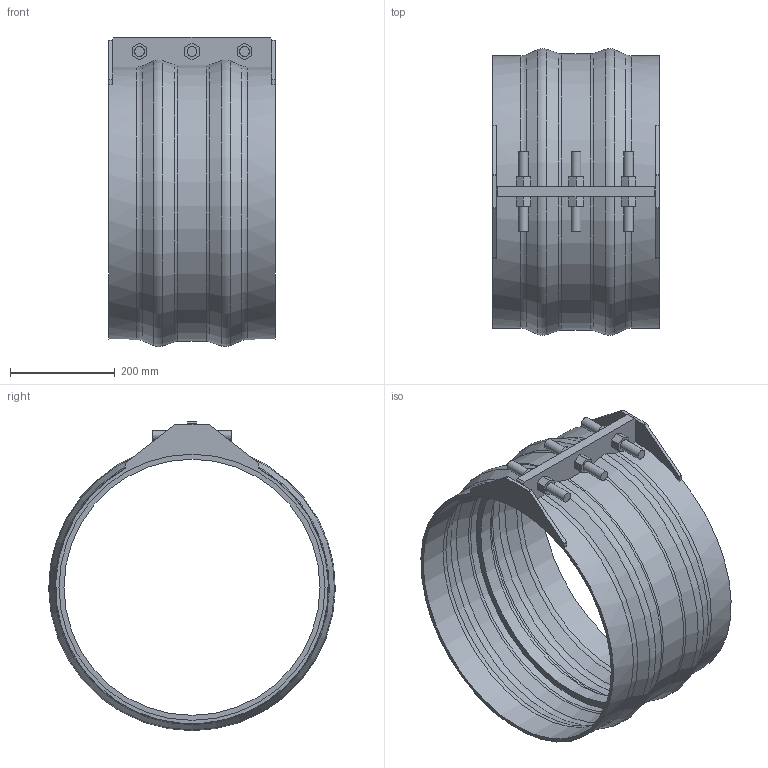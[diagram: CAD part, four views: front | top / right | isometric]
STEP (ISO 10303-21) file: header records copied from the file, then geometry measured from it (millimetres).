
FILE_DESCRIPTION(/* description */ ('VIC RESTRAINED COUPLING STYLE 233 (FLEX) (BRD)','CAx-IF Rec.Pracs.---Representation and Presentation of Product Manufacturing Information (PMI)---4.0---2014-10-13'),/* implementation_level */ '2;1');
FILE_NAME(/* name */ 'C:\Users\Vjadhav\Desktop\CAD for Inventor\Test for STEP\Vivek\Adsk_Inventor_Bolted Sleeve_iParts\STEP\Victaulic_VBSP_Coupling Flexible Restrained_Style 233 (BRD)\Victaulic_VBSP_Coupling Flexible Restrained_Style 233 (BRD)_300psi_20 (500).stp',/* time_stamp */ '2020-09-24T12:29:14+06:00',/* author */ ('Vjadhav'),/* organization */ ('Victaulic'),/* preprocessor_version */ 'ST-DEVELOPER v17.2',/* originating_system */ 'Autodesk Inventor 2019',/* authorisation */ '');
FILE_SCHEMA (('AP242_MANAGED_MODEL_BASED_3D_ENGINEERING_MIM_LF { 1 0 10303 442 1 1 4 }'));
Length unit declared in the file: inch
Products named in the file (1): Style_233_Type_2_300psi-20.0
Bounding box: 317.5 x 547.31 x 590.56 mm (x, y, z)
Volume: 4454469.2 mm3; surface area: 1220352.5 mm2
Topology: 1 solids, 1 shells, 115 faces, 309 edges, 210 vertices
Faces by surface type: plane 73, cylinder 22, torus 12, cone 8
Full cylindrical faces by diameter (mm): 19.05 x6, 488.95 x1, 508 x2, 514.35 x2
Entity records: 3970 total; most frequent: CARTESIAN_POINT 764, DIRECTION 645, ORIENTED_EDGE 618, EDGE_CURVE 309, AXIS2_PLACEMENT_3D 227, VERTEX_POINT 210, LINE 191, VECTOR 191
